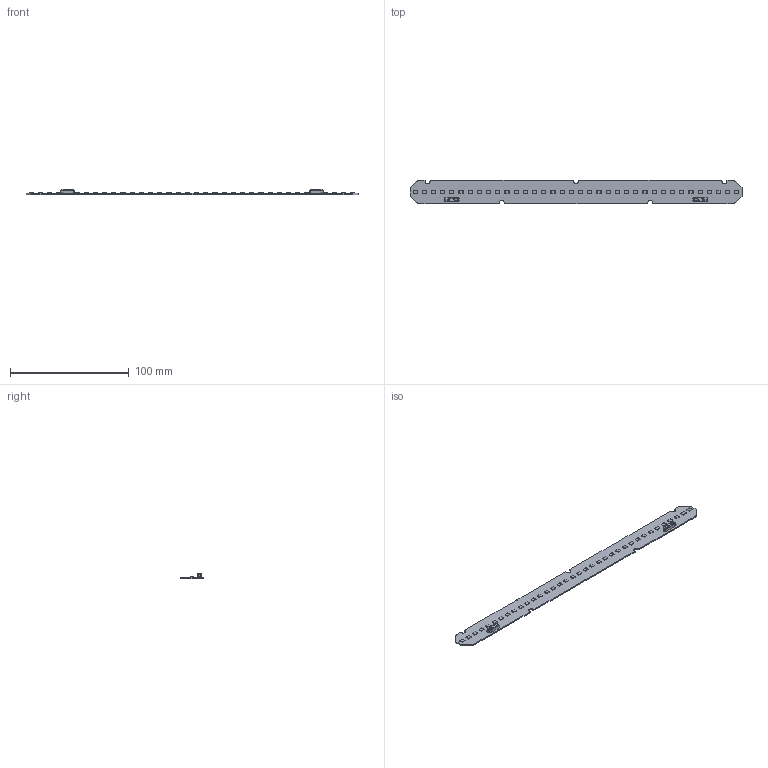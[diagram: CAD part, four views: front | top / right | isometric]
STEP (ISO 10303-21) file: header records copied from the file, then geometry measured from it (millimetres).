
FILE_DESCRIPTION(/* description */ ('Unknown'),/* implementation_level */ '2;1');
FILE_NAME(/* name */ 'LinLED 1100lm per 1ft 2C 280x20',/* time_stamp */ '2023-05-11T09:38:08+02:00',/* author */ ('Unknown'),/* organization */ ('Unknown'),/* preprocessor_version */ 'ST-DEVELOPER v18.102',/* originating_system */ 'Solid Edge',/* authorisation */ 'Unknown');
FILE_SCHEMA (('AUTOMOTIVE_DESIGN {1 0 10303 214 3 1 1}'));
Length unit declared in the file: millimetre
Products named in the file (1): LinLED 1100lm per 1ft 2C 280x20
Bounding box: 279.6 x 20 x 4.45 mm (x, y, z)
Volume: 5904.5 mm3; surface area: 12220.6 mm2
Topology: 1 solids, 1 shells, 1102 faces, 2878 edges, 1850 vertices
Faces by surface type: plane 797, cylinder 149, torus 64, cone 50, bspline 26, sphere 16
Entity records: 42056 total; most frequent: CARTESIAN_POINT 8057, ORIENTED_EDGE 5708, DIRECTION 4870, EDGE_CURVE 2854, LINE 2208, VECTOR 2208, VERTEX_POINT 1844, AXIS2_PLACEMENT_3D 1331
